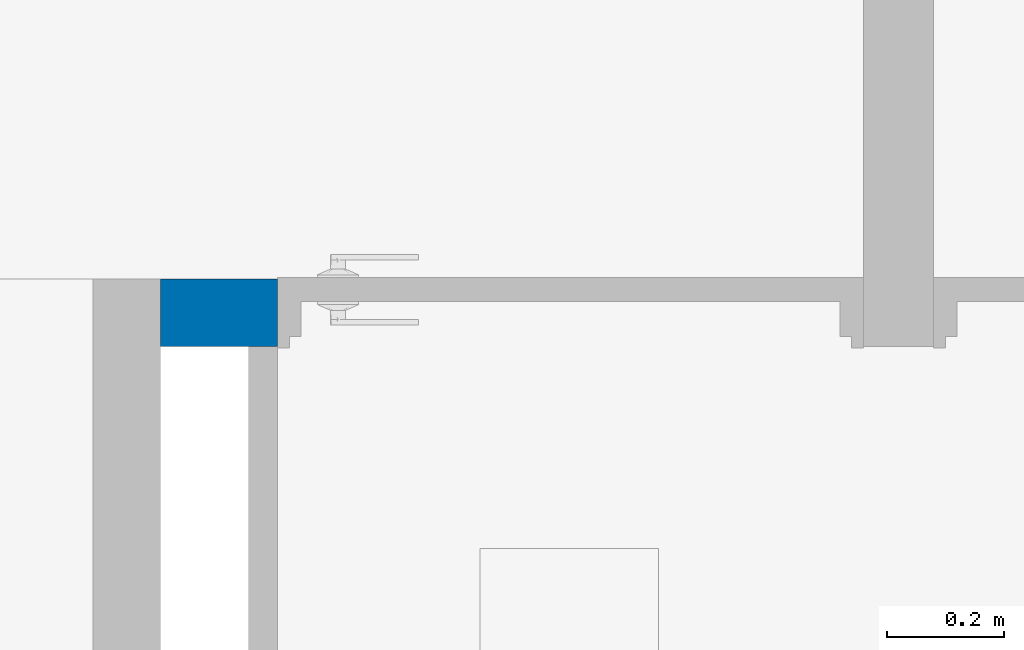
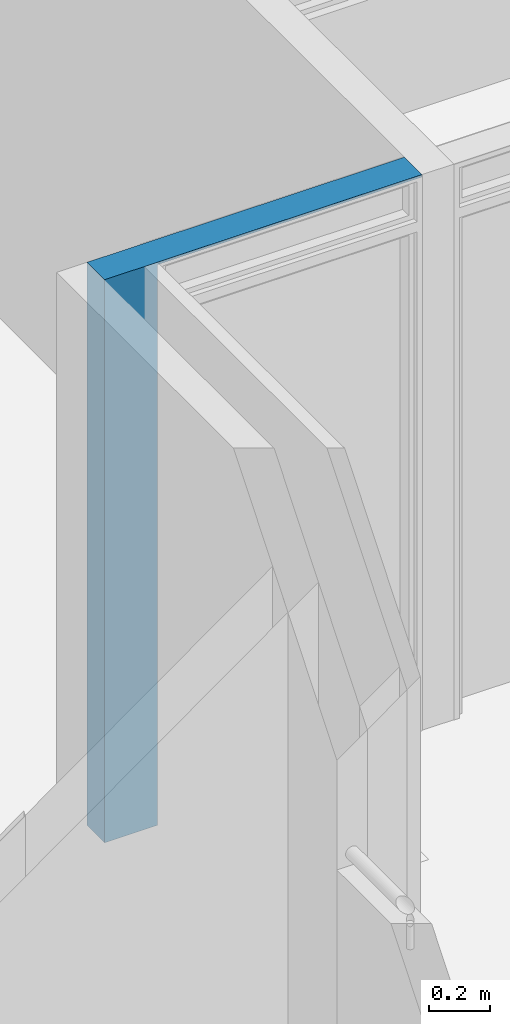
# One storey, part 31 of 47: 1 wall, 1 opening.
"""IFC4 building model written with IfcOpenShell, lengths in metres."""

import ifcopenshell
import ifcopenshell.guid

model = None  # the IFC model being written
_history = None  # IfcOwnerHistory: only IFC2X3 demands one
_inside = {}  # id of a spatial element -> (the spatial element, [elements in it])
_under = {}  # id of a project, library or spatial element -> (it, [spatial elements below it])
_declared = {}  # id of a project -> (the project, [libraries it declares])
_typed = {}  # id of a type object -> (the type object, [elements of that type])
_made_of = {}  # id of a material, layer set ... -> (it, [elements and type objects made of it])


def new_model(schema):
    """Start an empty IFC model of exactly this schema.

    Asked for "IFC4X3", IfcOpenShell would pick the latest addendum, in which some entities
    have other attributes; the version numbers below select the first issue.
    IFC2X3 requires an IfcOwnerHistory on every rooted entity: one is made here for all.
    """
    global model, _history
    if schema == "IFC4X3":
        model = ifcopenshell.file(schema_version=(4, 3, 0, 0))
    else:
        model = ifcopenshell.file(schema=schema)
    _inside.clear()
    _under.clear()
    _declared.clear()
    _typed.clear()
    _made_of.clear()
    _history = None
    if model.schema == "IFC2X3":
        org = make("IfcOrganization", Name="unknown")
        user = make(
            "IfcPersonAndOrganization",
            ThePerson=make("IfcPerson", FamilyName="unknown"),
            TheOrganization=org,
        )
        app = make(
            "IfcApplication",
            ApplicationDeveloper=org,
            Version="unknown",
            ApplicationFullName="unknown",
            ApplicationIdentifier="unknown",
        )
        _history = make(
            "IfcOwnerHistory",
            OwningUser=user,
            OwningApplication=app,
            ChangeAction="ADDED",
            CreationDate=0,
        )
    return model


def make(cls, **values):
    """One entity of the class cls with the attributes given. An attribute that is None is left unset."""
    return model.create_entity(
        cls, **{name: value for name, value in values.items() if value is not None}
    )


def entity(cls, *values):
    """Any entity or typed value of the class cls, its attributes in the order of the schema. None: left unset."""
    e = model.create_entity(cls)
    for i, value in enumerate(values):
        if value is not None:
            e[i] = value
    return e


def rooted(cls, **values):
    """An entity with a GlobalId (a new one), such as an element, a storey or a relation."""
    return make(cls, GlobalId=ifcopenshell.guid.new(), OwnerHistory=_history, **values)


def si_unit(unit_type, name, prefix=None):
    """IfcSIUnit, for example si_unit("LENGTHUNIT", "METRE", prefix="MILLI")."""
    return make("IfcSIUnit", UnitType=unit_type, Prefix=prefix, Name=name)


def converted_unit(unit_type, name, factor, base, dimensions=None, offset=None):
    """IfcConversionBasedUnit, such as the inch: factor (a typed value) times the base unit."""
    return make(
        "IfcConversionBasedUnit"
        if offset is None
        else "IfcConversionBasedUnitWithOffset",
        ConversionOffset=offset,
        Dimensions=None
        if dimensions is None
        else entity("IfcDimensionalExponents", *dimensions),
        UnitType=unit_type,
        Name=name,
        ConversionFactor=make(
            "IfcMeasureWithUnit", ValueComponent=factor, UnitComponent=base
        ),
    )


def derived_unit(unit_type, elements):
    """IfcDerivedUnit: a product of units, each with its exponent."""
    return make(
        "IfcDerivedUnit",
        Elements=[
            make("IfcDerivedUnitElement", Unit=unit, Exponent=power)
            for unit, power in elements
        ],
        UnitType=unit_type,
    )


def assignment(units):
    """IfcUnitAssignment: the units of a project."""
    return None if units is None else make("IfcUnitAssignment", Units=units)


def point(xyz):
    """IfcCartesianPoint."""
    return None if xyz is None else make("IfcCartesianPoint", Coordinates=xyz)


def direction(xyz):
    """IfcDirection."""
    return None if xyz is None else make("IfcDirection", DirectionRatios=xyz)


def frame(location, z_axis=None, x_axis=None):
    """IfcAxis2Placement3D, a coordinate frame: its origin and axes. An axis left out is left unset."""
    return make(
        "IfcAxis2Placement3D",
        Location=point(location),
        Axis=direction(z_axis),
        RefDirection=direction(x_axis),
    )


def origin():
    """The frame at (0, 0, 0) with its axes left unset."""
    return frame((0.0, 0.0, 0.0))


def place(relative_to, where):
    """IfcLocalPlacement: puts the frame where relative to a parent placement (None: the world)."""
    return make(
        "IfcLocalPlacement", PlacementRelTo=relative_to, RelativePlacement=where
    )


def context(
    kind, dimensions, precision=None, world=None, true_north=None, identifier=None
):
    """IfcGeometricRepresentationContext, for example the 3D "Model" context."""
    return make(
        "IfcGeometricRepresentationContext",
        ContextIdentifier=identifier,
        ContextType=kind,
        CoordinateSpaceDimension=dimensions,
        Precision=precision,
        WorldCoordinateSystem=world,
        TrueNorth=true_north,
    )


def subcontext(parent, identifier, kind, view, scale=None):
    """IfcGeometricRepresentationSubContext, for example "Body" below "Model"."""
    return make(
        "IfcGeometricRepresentationSubContext",
        ContextIdentifier=identifier,
        ContextType=kind,
        ParentContext=parent,
        TargetScale=scale,
        TargetView=view,
    )


def project(units=None, contexts=None):
    """IfcProject with its units and contexts."""
    return rooted(
        "IfcProject",
        Name="project",
        RepresentationContexts=contexts,
        UnitsInContext=assignment(units),
    )


def spatial(cls, under=None, at=None, **own):
    """A site, building, storey or space (cls), placed at a placement, below another one or the project."""
    s = rooted(cls, ObjectPlacement=at, **own)
    if under is not None:
        _under.setdefault(under.id(), (under, []))[1].append(s)
    return s


def point_list(points):
    """IfcCartesianPointList2D or 3D."""
    cls = (
        "IfcCartesianPointList2D" if len(points[0]) == 2 else "IfcCartesianPointList3D"
    )
    return make(cls, CoordList=points)


def indexed_curve(points, segments=None, self_intersect=None):
    """IfcIndexedPolyCurve: lines and arcs through numbered points (the first is 1)."""
    return make(
        "IfcIndexedPolyCurve",
        Points=point_list(points),
        Segments=segments,
        SelfIntersect=self_intersect,
    )


def outline(outer, holes=None, kind="AREA"):
    """IfcArbitraryClosedProfileDef: a profile drawn as a closed curve; with holes, ...WithVoids."""
    if holes is None:
        return make("IfcArbitraryClosedProfileDef", ProfileType=kind, OuterCurve=outer)
    return make(
        "IfcArbitraryProfileDefWithVoids",
        ProfileType=kind,
        OuterCurve=outer,
        InnerCurves=holes,
    )


def extrude(swept, where, along, depth):
    """IfcExtrudedAreaSolid: the profile swept, set in the frame where, extruded along a direction by depth."""
    return make(
        "IfcExtrudedAreaSolid",
        SweptArea=swept,
        Position=where,
        ExtrudedDirection=direction(along),
        Depth=depth,
    )


def polygons(points, faces, closed=None, point_numbers=None):
    """IfcPolygonalFaceSet: a face is its outer loop, then its inner loops; points numbered from 1."""
    made = []
    for loops in faces:
        if len(loops) == 1:
            made.append(make("IfcIndexedPolygonalFace", CoordIndex=loops[0]))
        else:
            made.append(
                make(
                    "IfcIndexedPolygonalFaceWithVoids",
                    CoordIndex=loops[0],
                    InnerCoordIndices=loops[1:],
                )
            )
    return make(
        "IfcPolygonalFaceSet",
        Coordinates=point_list(points),
        Closed=closed,
        Faces=made,
        PnIndex=point_numbers,
    )


def shape(context_of_items, identifier, shape_type, items):
    """IfcShapeRepresentation: the items that make up one representation, for example the "Body"."""
    return make(
        "IfcShapeRepresentation",
        ContextOfItems=context_of_items,
        RepresentationIdentifier=identifier,
        RepresentationType=shape_type,
        Items=items,
    )


def material(Name=None, Category=None):
    """IfcMaterial."""
    return make("IfcMaterial", Name=Name, Category=Category)


def made_of(thing, what):
    """Note that an element or type object is made of a material, layer set ...; save() writes the relation."""
    if what is not None:
        _made_of.setdefault(what.id(), (what, []))[1].append(thing)
    return thing


def type_object(cls, material=None, **own):
    """A type object (cls), such as IfcWallType, which elements share."""
    return made_of(rooted(cls, **own), material)


def element(
    cls,
    number,
    at=None,
    inside=None,
    cuts=None,
    type_object=None,
    material=None,
    context=None,
    identifier="Body",
    shape_type=None,
    held_by="IfcProductDefinitionShape",
    body=None,
    shapes=None,
    **own,
):
    """One element of the class cls, such as IfcWall. Its Tag is "e" and its number.

    at: its placement. inside: the storey or other place that contains it. cuts: it is an
    opening in that element (IfcRelVoidsElement). A single representation is given by context,
    identifier, shape_type and body (its items); several are given by shapes. held_by: the class
    of the entity that holds the representations. save() writes the other relations.
    """
    e = rooted(cls, Tag="e%d" % number, ObjectPlacement=at, **own)
    if body is not None:
        shapes = [shape(context, identifier, shape_type, body)]
    if shapes is not None:
        e.Representation = make(held_by, Representations=shapes)
    if inside is not None:
        _inside.setdefault(inside.id(), (inside, []))[1].append(e)
    if cuts is not None:
        rooted(
            "IfcRelVoidsElement", RelatingBuildingElement=cuts, RelatedOpeningElement=e
        )
    if type_object is not None:
        _typed.setdefault(type_object.id(), (type_object, []))[1].append(e)
    return made_of(e, material)


def aggregate(whole, parts):
    """IfcRelAggregates: a whole, such as a stair, and the parts it consists of."""
    return rooted("IfcRelAggregates", RelatingObject=whole, RelatedObjects=parts)


def save(model, path):
    """Write the relations noted so far, then the file.

    IfcRelAggregates (storeys below a building ...), IfcRelContainedInSpatialStructure (elements
    in a storey), IfcRelDefinesByType, IfcRelAssociatesMaterial and IfcRelDeclares: one each for
    every whole, place, type object, material and project.
    """
    for whole, parts in _under.values():
        aggregate(whole, parts)
    for where, things in _inside.values():
        rooted(
            "IfcRelContainedInSpatialStructure",
            RelatedElements=things,
            RelatingStructure=where,
        )
    for kind, things in _typed.values():
        rooted("IfcRelDefinesByType", RelatedObjects=things, RelatingType=kind)
    for what, things in _made_of.values():
        rooted("IfcRelAssociatesMaterial", RelatedObjects=things, RelatingMaterial=what)
    for by, libraries in _declared.values():
        rooted("IfcRelDeclares", RelatingContext=by, RelatedDefinitions=libraries)
    model.write(path)


model = new_model("IFC4")

# Units and contexts
model_context = context("Model", 3, precision=1e-05, world=origin(), true_north=direction((6.123031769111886e-17, 1.0)))
body_context = subcontext(model_context, "Body", "Model", "MODEL_VIEW")
ifc_project = project(units=[si_unit("LENGTHUNIT", "METRE"), si_unit("AREAUNIT", "SQUARE_METRE"), si_unit("VOLUMEUNIT", "CUBIC_METRE"), converted_unit("PLANEANGLEUNIT", "DEGREE", entity("IfcRatioMeasure", 0.017453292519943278), si_unit("PLANEANGLEUNIT", "RADIAN"), dimensions=[0, 0, 0, 0, 0, 0, 0]), si_unit("MASSUNIT", "GRAM", prefix="KILO"), derived_unit("MASSDENSITYUNIT", [(si_unit("MASSUNIT", "GRAM", prefix="KILO"), 1), (si_unit("LENGTHUNIT", "METRE"), -3)]), derived_unit("IONCONCENTRATIONUNIT", [(si_unit("MASSUNIT", "GRAM", prefix="KILO"), 1), (si_unit("LENGTHUNIT", "METRE"), -3)]), derived_unit("MOMENTOFINERTIAUNIT", [(si_unit("LENGTHUNIT", "METRE"), 4)]), si_unit("TIMEUNIT", "SECOND"), si_unit("FREQUENCYUNIT", "HERTZ"), si_unit("THERMODYNAMICTEMPERATUREUNIT", "DEGREE_CELSIUS"), derived_unit("THERMALTRANSMITTANCEUNIT", [(si_unit("MASSUNIT", "GRAM", prefix="KILO"), 1), (si_unit("THERMODYNAMICTEMPERATUREUNIT", "KELVIN"), -1), (si_unit("TIMEUNIT", "SECOND"), -3)]), derived_unit("THERMALCONDUCTANCEUNIT", [(si_unit("MASSUNIT", "GRAM", prefix="KILO"), 1), (si_unit("THERMODYNAMICTEMPERATUREUNIT", "KELVIN"), -1), (si_unit("TIMEUNIT", "SECOND"), -3), (si_unit("LENGTHUNIT", "METRE"), 1)]), derived_unit("VOLUMETRICFLOWRATEUNIT", [(si_unit("LENGTHUNIT", "METRE"), 3), (si_unit("TIMEUNIT", "SECOND"), -1)]), derived_unit("MASSFLOWRATEUNIT", [(si_unit("MASSUNIT", "GRAM", prefix="KILO"), 1), (si_unit("TIMEUNIT", "SECOND"), -1)]), derived_unit("ROTATIONALFREQUENCYUNIT", [(si_unit("TIMEUNIT", "SECOND"), -1)]), si_unit("ELECTRICCURRENTUNIT", "AMPERE"), si_unit("ELECTRICVOLTAGEUNIT", "VOLT"), si_unit("POWERUNIT", "WATT"), si_unit("FORCEUNIT", "NEWTON", prefix="KILO"), si_unit("ILLUMINANCEUNIT", "LUX"), si_unit("LUMINOUSFLUXUNIT", "LUMEN"), si_unit("LUMINOUSINTENSITYUNIT", "CANDELA"), derived_unit("USERDEFINED", [(si_unit("MASSUNIT", "GRAM", prefix="KILO"), -1), (si_unit("LENGTHUNIT", "METRE"), -2), (si_unit("TIMEUNIT", "SECOND"), 3), (si_unit("LUMINOUSFLUXUNIT", "LUMEN"), 1)]), derived_unit("USERDEFINED", [(si_unit("MASSUNIT", "GRAM", prefix="KILO"), 1), (si_unit("TIMEUNIT", "SECOND"), -3), (si_unit("LENGTHUNIT", "METRE"), 3), (si_unit("ELECTRICCURRENTUNIT", "AMPERE"), -2)]), derived_unit("SOUNDPOWERUNIT", [(si_unit("MASSUNIT", "GRAM", prefix="KILO"), 1), (si_unit("TIMEUNIT", "SECOND"), -3), (si_unit("LENGTHUNIT", "METRE"), 2)]), derived_unit("SOUNDPRESSUREUNIT", [(si_unit("MASSUNIT", "GRAM", prefix="KILO"), 1), (si_unit("LENGTHUNIT", "METRE"), -1), (si_unit("TIMEUNIT", "SECOND"), -2)]), derived_unit("LINEARVELOCITYUNIT", [(si_unit("LENGTHUNIT", "METRE"), 1), (si_unit("TIMEUNIT", "SECOND"), -1)]), si_unit("PRESSUREUNIT", "PASCAL"), derived_unit("USERDEFINED", [(si_unit("MASSUNIT", "GRAM", prefix="KILO"), 1), (si_unit("LENGTHUNIT", "METRE"), -2), (si_unit("TIMEUNIT", "SECOND"), -2)]), derived_unit("LINEARFORCEUNIT", [(si_unit("MASSUNIT", "GRAM", prefix="KILO"), 1), (si_unit("TIMEUNIT", "SECOND"), -2)]), derived_unit("PLANARFORCEUNIT", [(si_unit("MASSUNIT", "GRAM", prefix="KILO"), 1), (si_unit("LENGTHUNIT", "METRE"), -1), (si_unit("TIMEUNIT", "SECOND"), -2)]), derived_unit("SPECIFICHEATCAPACITYUNIT", [(si_unit("THERMODYNAMICTEMPERATUREUNIT", "KELVIN"), -1), (si_unit("LENGTHUNIT", "METRE"), 2), (si_unit("TIMEUNIT", "SECOND"), -2)]), derived_unit("HEATINGVALUEUNIT", [(si_unit("LENGTHUNIT", "METRE"), 2), (si_unit("TIMEUNIT", "SECOND"), -2)]), derived_unit("VAPORPERMEABILITYUNIT", [(si_unit("LENGTHUNIT", "METRE"), -1), (si_unit("TIMEUNIT", "SECOND"), 1)]), derived_unit("DYNAMICVISCOSITYUNIT", [(si_unit("MASSUNIT", "GRAM", prefix="KILO"), 1), (si_unit("TIMEUNIT", "SECOND"), -1), (si_unit("LENGTHUNIT", "METRE"), -1)]), derived_unit("THERMALEXPANSIONCOEFFICIENTUNIT", [(si_unit("THERMODYNAMICTEMPERATUREUNIT", "KELVIN"), -1)]), derived_unit("MODULUSOFELASTICITYUNIT", [(si_unit("MASSUNIT", "GRAM", prefix="KILO"), 1), (si_unit("LENGTHUNIT", "METRE"), -1), (si_unit("TIMEUNIT", "SECOND"), -2)]), derived_unit("ISOTHERMALMOISTURECAPACITYUNIT", [(si_unit("LENGTHUNIT", "METRE"), 3), (si_unit("MASSUNIT", "GRAM", prefix="KILO"), -1)]), derived_unit("MOISTUREDIFFUSIVITYUNIT", [(si_unit("TIMEUNIT", "SECOND"), -1), (si_unit("LENGTHUNIT", "METRE"), 2)])], contexts=[model_context])

# Site, building, storey
site_placement = place(None, origin())
site = spatial("IfcSite", under=ifc_project, at=site_placement, Name="Default", CompositionType="ELEMENT")
building_placement = place(site_placement, origin())
building = spatial("IfcBuilding", under=site, at=building_placement, CompositionType="ELEMENT")
storey_placement = place(building_placement, frame((0.0, 0.0, 11.750000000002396)))
storey = spatial("IfcBuildingStorey", under=building, at=storey_placement, Name="Nivel 6", CompositionType="ELEMENT", Elevation=11.750000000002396)

# Wall, opening
ifc_material = material(Name="LADRILLO CLARO", Category="Materials")
wall_type = type_object("IfcWallType", Name="Basic Wall:B2010 - 0.115m - MI mampostería no estructural - Ladrillo", PredefinedType="STANDARD")
wall_placement = place(storey_placement, frame((8.062500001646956, -3.7675000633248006, 0.0)))
wall = element("IfcWall", 1, at=wall_placement, inside=storey, type_object=wall_type, material=ifc_material, Name="Basic Wall:B2010 - 0.115m - MI mampostería no estructural - Ladrillo", ObjectType="Basic Wall:B2010 - 0.115m - MI mampostería no estructural - Ladrillo", PredefinedType="NOTDEFINED", context=body_context, shape_type="Tessellation", body=[
    polygons([(1.1999999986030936, -0.05750000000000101, 2.2499999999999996), (0.1999999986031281, -0.057499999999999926, 2.2499999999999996), (0.14999999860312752, -0.05750000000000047, 2.2499999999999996), (6.609339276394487e-16, -0.057499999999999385, 2.2499999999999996), (6.609339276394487e-16, -0.057499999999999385, 0.0), (0.14999999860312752, -0.05750000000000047, 0.0), (0.19999999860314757, -0.057499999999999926, 0.0), (0.19999999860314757, -0.057499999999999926, 2.2399999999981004), (1.1999999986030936, -0.05750000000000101, 2.2399999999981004), (3.9617900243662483e-16, 0.05750000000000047, 2.2499999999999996), (1.1999999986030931, 0.057499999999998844, 2.2499999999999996), (1.1999999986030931, 0.057499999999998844, 2.2399999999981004), (0.19999999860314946, 0.057499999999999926, 2.2399999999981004), (0.1999999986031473, 0.057499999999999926, 0.0), (3.9617900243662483e-16, 0.05750000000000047, 0.0)], [[[1, 2, 3, 4, 5, 6, 7, 8, 9]], [[10, 11, 12, 13, 14, 15]], [[5, 15, 14, 7, 6]], [[11, 1, 9, 12]], [[4, 3, 2, 1, 11, 10]], [[5, 4, 10, 15]], [[13, 8, 7, 14]], [[8, 13, 12, 9]]], closed=True),
])
opening_placement = place(wall_placement, frame((0.19999999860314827, -0.057499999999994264, 0.0)))
element("IfcOpeningElement", 2, at=opening_placement, cuts=wall, Name="C1030 - Puerta batiente - Madera + Metal:C1030 - 1.00 x 2.24 - Puerta batiente - Madera:1", PredefinedType="OPENING", context=body_context, shape_type="SweptSolid", body=[
    extrude(outline(indexed_curve([(0.0, -4.288200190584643e-32), (2.239999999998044, -4.288200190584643e-32), (2.2399999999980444, 0.9999999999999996), (0.0, 0.9999999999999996), (0.0, -4.288200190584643e-32)], self_intersect=False)), frame((0.0, 0.0, 0.0), z_axis=(0.0, 1.0, 0.0), x_axis=(0.0, 0.0, 1.0)), (0.0, 0.0, 1.0), 0.115),
])

save(model, "model.ifc")
